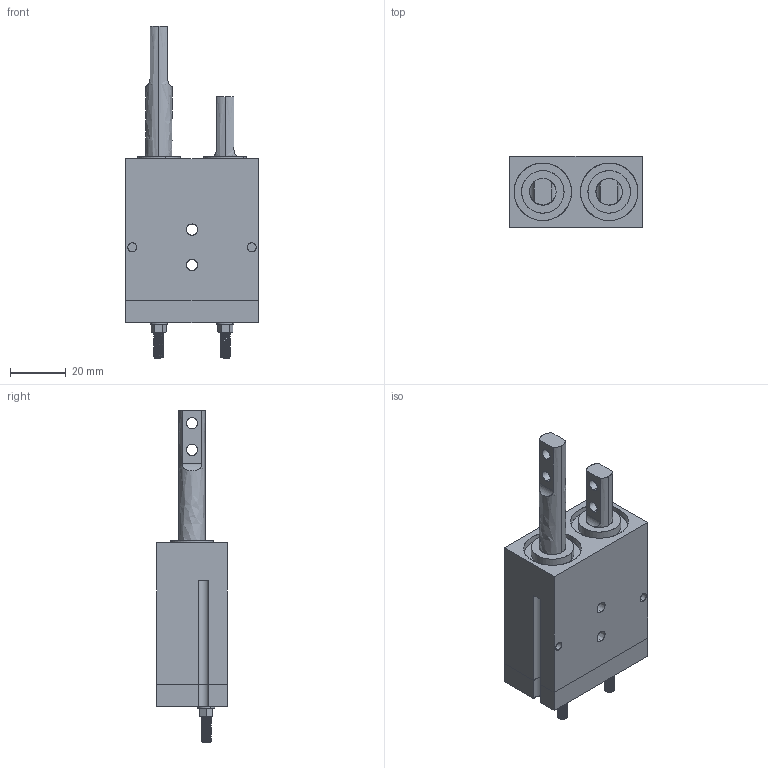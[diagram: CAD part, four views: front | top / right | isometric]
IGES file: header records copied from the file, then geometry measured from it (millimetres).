
Start section: SolidWorks IGES file using analytic representation for surfaces
Global section: file name: C:\Users\jmkuhnes\Pictures\My Transfers\AGE-1\AGE-1 in MM.IGS; native system: SolidWorks 2013; preprocessor: SolidWorks 2013; author: jmkuhnes; date: 141119.085516; units: millimetre
Bounding box: 47.62 x 25.4 x 119.08 mm (x, y, z)
Surface area: 30265.3 mm2 (no closed solid volume)
Topology: 0 solids, 0 shells, 787 faces, 11832 edges, 11816 vertices
Faces by surface type: revolution 670, bspline 117
